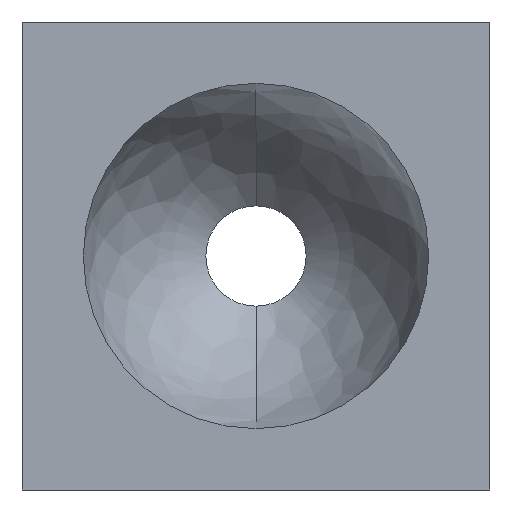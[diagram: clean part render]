
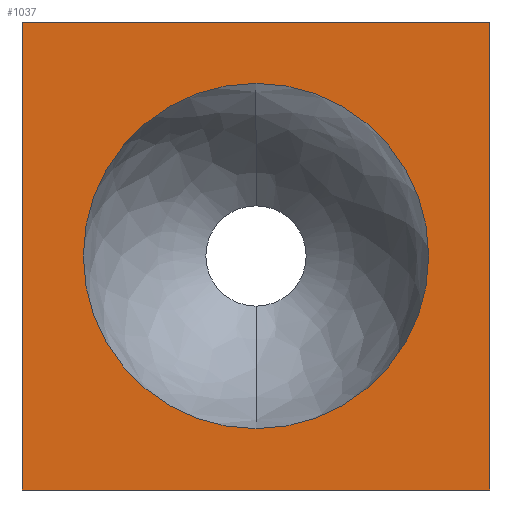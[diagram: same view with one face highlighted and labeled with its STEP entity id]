
A CAD part, front view. The second image highlights one B-rep face of the part: STEP entity #1037.
In plain terms, the highlighted planar face has unit normal (0, -1, 0).
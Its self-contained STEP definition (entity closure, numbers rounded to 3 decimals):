
#57 = DIRECTION ( 'NONE',  ( 0., 0., 1. ) ) ;
#128 = CARTESIAN_POINT ( 'NONE',  ( -10.5, -9.5, -10.5 ) ) ;
#133 = DIRECTION ( 'NONE',  ( 1., 0., 0. ) ) ;
#139 = AXIS2_PLACEMENT_3D ( 'NONE', #828, #432, #57 ) ;
#140 = AXIS2_PLACEMENT_3D ( 'NONE', #1031, #1538, #253 ) ;
#142 = EDGE_CURVE ( 'NONE', #1290, #176, #720, .T. ) ;
#174 = DIRECTION ( 'NONE',  ( -1., 0., 0. ) ) ;
#176 = VERTEX_POINT ( 'NONE', #1133 ) ;
#209 = EDGE_LOOP ( 'NONE', ( #1181, #1086 ) ) ;
#222 = VERTEX_POINT ( 'NONE', #1555 ) ;
#224 = CARTESIAN_POINT ( 'NONE',  ( 10.5, -9.5, 10.5 ) ) ;
#253 = DIRECTION ( 'NONE',  ( 0., 0., -1. ) ) ;
#302 = VECTOR ( 'NONE', #614, 1000. ) ;
#317 = VERTEX_POINT ( 'NONE', #1059 ) ;
#421 = AXIS2_PLACEMENT_3D ( 'NONE', #456, #961, #730 ) ;
#432 = DIRECTION ( 'NONE',  ( 0., 1., 0. ) ) ;
#433 = EDGE_CURVE ( 'NONE', #317, #908, #1197, .T. ) ;
#456 = CARTESIAN_POINT ( 'NONE',  ( 0., -9.5, 0. ) ) ;
#478 = EDGE_CURVE ( 'NONE', #572, #222, #1493, .T. ) ;
#532 = VECTOR ( 'NONE', #174, 1000. ) ;
#572 = VERTEX_POINT ( 'NONE', #1103 ) ;
#614 = DIRECTION ( 'NONE',  ( 0., 0., -1. ) ) ;
#636 = PLANE ( 'NONE',  #140 ) ;
#654 = VECTOR ( 'NONE', #820, 1000. ) ;
#656 = CARTESIAN_POINT ( 'NONE',  ( -10.5, -9.5, 10.5 ) ) ;
#682 = CARTESIAN_POINT ( 'NONE',  ( -10.5, -9.5, 10.5 ) ) ;
#720 = LINE ( 'NONE', #224, #302 ) ;
#730 = DIRECTION ( 'NONE',  ( 0., 0., 1. ) ) ;
#745 = ORIENTED_EDGE ( 'NONE', *, *, #433, .F. ) ;
#778 = ORIENTED_EDGE ( 'NONE', *, *, #142, .F. ) ;
#820 = DIRECTION ( 'NONE',  ( 0., 0., 1. ) ) ;
#821 = EDGE_LOOP ( 'NONE', ( #778, #926, #745, #1270 ) ) ;
#828 = CARTESIAN_POINT ( 'NONE',  ( 0., -9.5, 0. ) ) ;
#908 = VERTEX_POINT ( 'NONE', #656 ) ;
#926 = ORIENTED_EDGE ( 'NONE', *, *, #1001, .F. ) ;
#961 = DIRECTION ( 'NONE',  ( 0., 1., 0. ) ) ;
#1001 = EDGE_CURVE ( 'NONE', #908, #1290, #1391, .T. ) ;
#1023 = CARTESIAN_POINT ( 'NONE',  ( 10.5, -9.5, 10.5 ) ) ;
#1031 = CARTESIAN_POINT ( 'NONE',  ( 0., -9.5, 0. ) ) ;
#1037 = ADVANCED_FACE ( 'NONE', ( #1062, #1361 ), #636, .T. ) ;
#1051 = EDGE_CURVE ( 'NONE', #176, #317, #1076, .T. ) ;
#1052 = CARTESIAN_POINT ( 'NONE',  ( -10.5, -9.5, 10.5 ) ) ;
#1059 = CARTESIAN_POINT ( 'NONE',  ( -10.5, -9.5, -10.5 ) ) ;
#1062 = FACE_BOUND ( 'NONE', #209, .T. ) ;
#1076 = LINE ( 'NONE', #128, #532 ) ;
#1086 = ORIENTED_EDGE ( 'NONE', *, *, #1416, .T. ) ;
#1103 = CARTESIAN_POINT ( 'NONE',  ( 0., -9.5, -7.75 ) ) ;
#1133 = CARTESIAN_POINT ( 'NONE',  ( 10.5, -9.5, -10.5 ) ) ;
#1181 = ORIENTED_EDGE ( 'NONE', *, *, #478, .T. ) ;
#1197 = LINE ( 'NONE', #682, #654 ) ;
#1270 = ORIENTED_EDGE ( 'NONE', *, *, #1051, .F. ) ;
#1290 = VERTEX_POINT ( 'NONE', #1023 ) ;
#1361 = FACE_OUTER_BOUND ( 'NONE', #821, .T. ) ;
#1391 = LINE ( 'NONE', #1052, #1558 ) ;
#1416 = EDGE_CURVE ( 'NONE', #222, #572, #1668, .T. ) ;
#1493 = CIRCLE ( 'NONE', #421, 7.75 ) ;
#1538 = DIRECTION ( 'NONE',  ( 0., -1., 0. ) ) ;
#1555 = CARTESIAN_POINT ( 'NONE',  ( 0., -9.5, 7.75 ) ) ;
#1558 = VECTOR ( 'NONE', #133, 1000. ) ;
#1668 = CIRCLE ( 'NONE', #139, 7.75 ) ;
